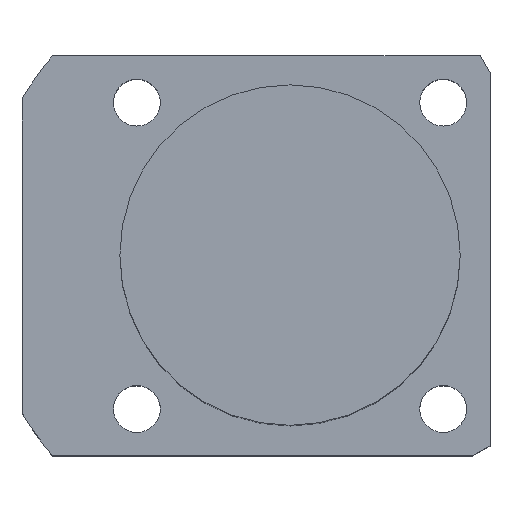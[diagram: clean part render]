
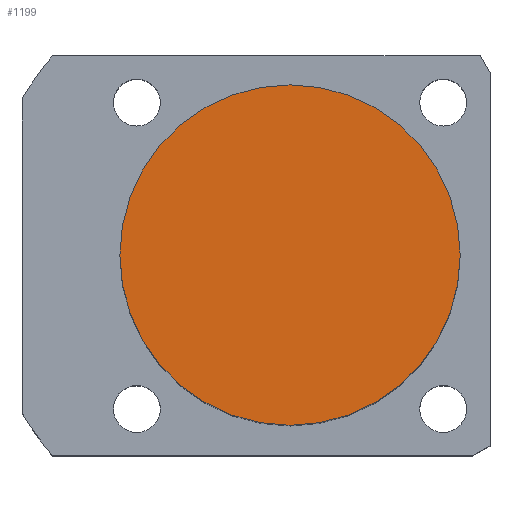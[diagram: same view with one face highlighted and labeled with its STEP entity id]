
A CAD part, top view. The second image highlights one B-rep face of the part: STEP entity #1199.
In plain terms, the highlighted planar face has unit normal (0, 0, 1).
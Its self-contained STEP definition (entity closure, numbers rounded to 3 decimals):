
#109 = DIRECTION ( 'NONE',  ( 1., 0., 0. ) ) ;
#135 = VERTEX_POINT ( 'NONE', #1057 ) ;
#325 = EDGE_CURVE ( 'NONE', #2100, #135, #1137, .T. ) ;
#437 = DIRECTION ( 'NONE',  ( 0., 0., 1. ) ) ;
#544 = AXIS2_PLACEMENT_3D ( 'NONE', #881, #1209, #1705 ) ;
#568 = EDGE_LOOP ( 'NONE', ( #1916, #1788 ) ) ;
#706 = FACE_OUTER_BOUND ( 'NONE', #568, .T. ) ;
#749 = PLANE ( 'NONE',  #845 ) ;
#845 = AXIS2_PLACEMENT_3D ( 'NONE', #1418, #437, #1220 ) ;
#881 = CARTESIAN_POINT ( 'NONE',  ( 0., 0., 61.5 ) ) ;
#913 = DIRECTION ( 'NONE',  ( 0., 0., 1. ) ) ;
#963 = CARTESIAN_POINT ( 'NONE',  ( -20., 0., 61.5 ) ) ;
#1057 = CARTESIAN_POINT ( 'NONE',  ( 20., 0., 61.5 ) ) ;
#1137 = CIRCLE ( 'NONE', #544, 20. ) ;
#1199 = ADVANCED_FACE ( 'NONE', ( #706 ), #749, .T. ) ;
#1209 = DIRECTION ( 'NONE',  ( 0., 0., 1. ) ) ;
#1220 = DIRECTION ( 'NONE',  ( 1., 0., 0. ) ) ;
#1245 = CARTESIAN_POINT ( 'NONE',  ( 0., 0., 61.5 ) ) ;
#1307 = CIRCLE ( 'NONE', #1908, 20. ) ;
#1418 = CARTESIAN_POINT ( 'NONE',  ( 0., 0., 61.5 ) ) ;
#1705 = DIRECTION ( 'NONE',  ( 1., 0., 0. ) ) ;
#1739 = EDGE_CURVE ( 'NONE', #135, #2100, #1307, .T. ) ;
#1788 = ORIENTED_EDGE ( 'NONE', *, *, #1739, .T. ) ;
#1908 = AXIS2_PLACEMENT_3D ( 'NONE', #1245, #913, #109 ) ;
#1916 = ORIENTED_EDGE ( 'NONE', *, *, #325, .T. ) ;
#2100 = VERTEX_POINT ( 'NONE', #963 ) ;
